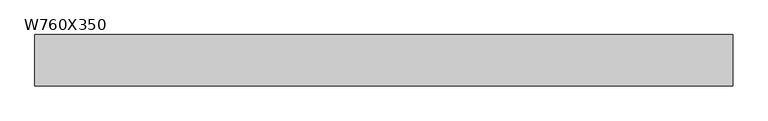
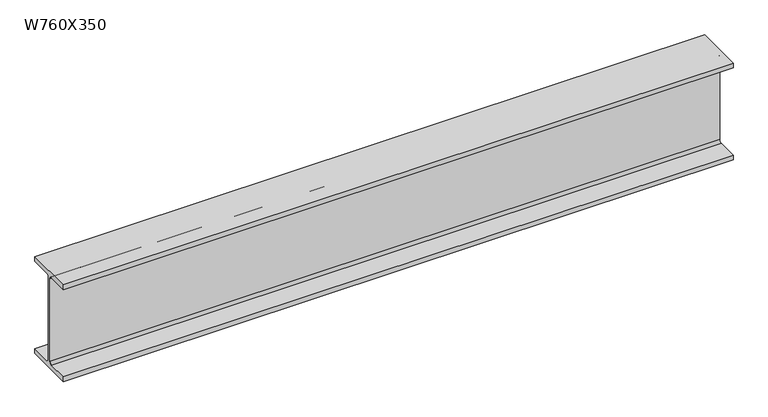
"""IFC4 building model written with IfcOpenShell, lengths in millimetres: beam geometry, M_W Shapes : W760X350."""

from ifc_helpers import new_model, si_unit, point, frame, frame_2d, origin, place, context, project, spatial, polyline, circle_curve, trimmed, segment, composite_curve, outline, extrude, source, transform, mapped, element, save


def w760x350_3d57319f(model_context):
    return source(origin(), model_context, "Body", "SweptSolid", [
        extrude(outline(composite_curve([segment(polyline([(192.0, -359.4), (192.0, -397.5), (-192.0, -397.5), (-192.0, -359.4), (-30.65, -359.4)]), True, "CONTINUOUS"), segment(trimmed(circle_curve(frame_2d((-30.65, -339.3)), 20.1), [point((-30.65, -359.4))], [point((-10.55, -339.3))], True, "CARTESIAN"), True, "CONTINUOUS"), segment(polyline([(-10.55, -339.3), (-10.55, 339.3)]), True, "CONTINUOUS"), segment(trimmed(circle_curve(frame_2d((-30.65, 339.3)), 20.1), [point((-10.55, 339.3))], [point((-30.65, 359.4))], True, "CARTESIAN"), True, "CONTINUOUS"), segment(polyline([(-30.65, 359.4), (-192.0, 359.4), (-192.0, 397.5), (192.0, 397.5), (192.0, 359.4), (30.65, 359.4)]), True, "CONTINUOUS"), segment(trimmed(circle_curve(frame_2d((30.65, 339.3)), 20.1), [point((30.65, 359.4))], [point((10.55, 339.3))], True, "CARTESIAN"), True, "CONTINUOUS"), segment(polyline([(10.55, 339.3), (10.55, -339.3)]), True, "CONTINUOUS"), segment(trimmed(circle_curve(frame_2d((30.65, -339.3)), 20.1), [point((10.55, -339.3))], [point((30.65, -359.4))], True, "CARTESIAN"), True, "CONTINUOUS"), segment(polyline([(30.65, -359.4), (192.0, -359.4)]), True, "CONTINUOUS")], self_intersect=False)), frame((-2605.8, 0.0, 0.0), z_axis=(1.0, 0.0, 0.0), x_axis=(0.0, 1.0, 0.0)), (0.0, 0.0, 1.0), 5211.6),
    ])


if __name__ == "__main__":
    model = new_model("IFC4")
    model_context = context("Model", 3, world=origin())
    ifc_project = project(units=[si_unit("LENGTHUNIT", "METRE", prefix="MILLI")], contexts=[model_context])
    site = spatial("IfcSite", under=ifc_project)
    building = spatial("IfcBuilding", under=site)
    placement = place(None, origin())
    w760x350_shape = w760x350_3d57319f(model_context)
    element("IfcBeam", 1, ObjectType="M_W Shapes : W760X350", at=placement, inside=building, context=model_context, shape_type="MappedRepresentation", body=[
        mapped(w760x350_shape, transform((0.0, 0.0, 0.0), x_axis=(1.0, 0.0, 0.0), y_axis=(0.0, 1.0, 0.0), z_axis=(0.0, 0.0, 1.0))),
    ])
    save(model, "model.ifc")
